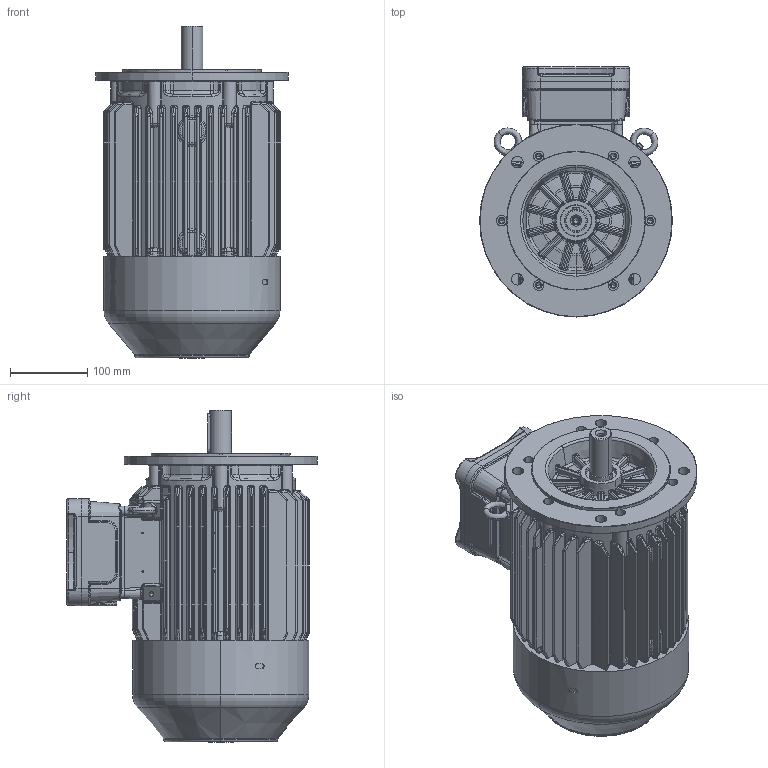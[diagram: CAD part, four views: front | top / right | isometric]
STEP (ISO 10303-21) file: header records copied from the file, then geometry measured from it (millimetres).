
FILE_DESCRIPTION (( 'STEP AP214' ), '1' );
FILE_NAME ('6RD100L6E3 IM3001.STEP', '2021-07-30T13:00:39', ( '' ), ( '' ), 'SwSTEP 2.0', 'SolidWorks 2018', '' );
FILE_SCHEMA (( 'AUTOMOTIVE_DESIGN' ));
Length unit declared in the file: millimetre
Products named in the file (1): 6RD100L6E3 IM3001
Bounding box: 250 x 324.5 x 430.6 mm (x, y, z)
Volume: 14063895.9 mm3; surface area: 683535.2 mm2
Topology: 1 solids, 29 shells, 3839 faces, 9208 edges, 5384 vertices
Faces by surface type: cylinder 1695, bspline 821, plane 665, torus 365, cone 159, sphere 134
Entity records: 171175 total; most frequent: CARTESIAN_POINT 87770, ORIENTED_EDGE 17930, DIRECTION 17322, EDGE_CURVE 8965, AXIS2_PLACEMENT_3D 7302, VERTEX_POINT 5382, CIRCLE 4283, EDGE_LOOP 4057
